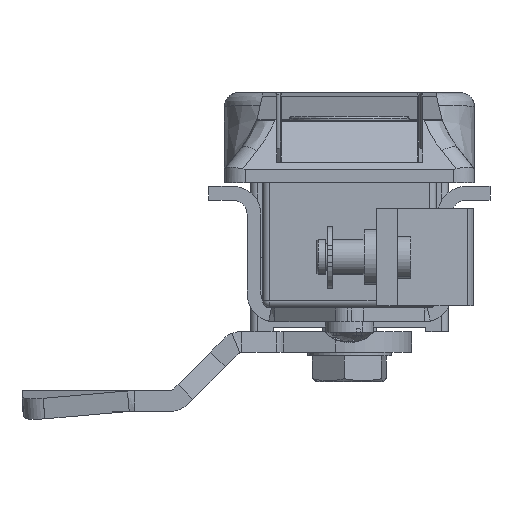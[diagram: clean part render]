
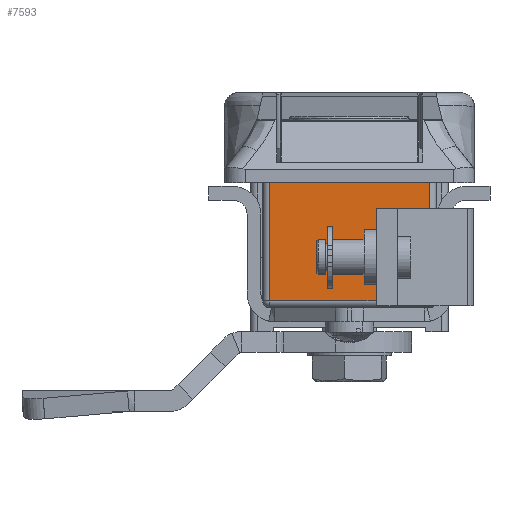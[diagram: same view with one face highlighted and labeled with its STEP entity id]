
A CAD part, front view. The second image highlights one B-rep face of the part: STEP entity #7593.
In plain terms, the highlighted planar face has unit normal (0, -1, 0).
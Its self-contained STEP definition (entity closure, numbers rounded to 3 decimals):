
#847 = EDGE_CURVE ( 'NONE', #20126, #12007, #7507, .T. ) ;
#1799 = VECTOR ( 'NONE', #46920, 1000. ) ;
#2677 = CARTESIAN_POINT ( 'NONE',  ( -6.5, 3., -17. ) ) ;
#3412 = CARTESIAN_POINT ( 'NONE',  ( -29.5, 3., -18. ) ) ;
#4815 = ORIENTED_EDGE ( 'NONE', *, *, #29370, .F. ) ;
#6681 = CARTESIAN_POINT ( 'NONE',  ( -29.5, 3., -17. ) ) ;
#7507 = LINE ( 'NONE', #30867, #7778 ) ;
#7543 = LINE ( 'NONE', #27678, #27519 ) ;
#7593 = ADVANCED_FACE ( 'NONE', ( #34584 ), #32876, .F. ) ;
#7778 = VECTOR ( 'NONE', #28297, 1000. ) ;
#12007 = VERTEX_POINT ( 'NONE', #45372 ) ;
#12050 = AXIS2_PLACEMENT_3D ( 'NONE', #32557, #32550, #32429 ) ;
#16648 = CARTESIAN_POINT ( 'NONE',  ( -6.5, 3., 0. ) ) ;
#20126 = VERTEX_POINT ( 'NONE', #16648 ) ;
#20428 = LINE ( 'NONE', #3412, #34051 ) ;
#21565 = ORIENTED_EDGE ( 'NONE', *, *, #847, .T. ) ;
#21956 = VERTEX_POINT ( 'NONE', #2677 ) ;
#23265 = EDGE_CURVE ( 'NONE', #20126, #21956, #7543, .T. ) ;
#26589 = VERTEX_POINT ( 'NONE', #6681 ) ;
#27519 = VECTOR ( 'NONE', #27663, 1000. ) ;
#27663 = DIRECTION ( 'NONE',  ( 0., 0., -1. ) ) ;
#27678 = CARTESIAN_POINT ( 'NONE',  ( -6.5, 3., -18. ) ) ;
#27834 = ORIENTED_EDGE ( 'NONE', *, *, #23265, .F. ) ;
#28297 = DIRECTION ( 'NONE',  ( -1., 0., 0. ) ) ;
#29370 = EDGE_CURVE ( 'NONE', #21956, #26589, #31812, .T. ) ;
#30867 = CARTESIAN_POINT ( 'NONE',  ( 0., 3., 0. ) ) ;
#31594 = EDGE_LOOP ( 'NONE', ( #21565, #33385, #4815, #27834 ) ) ;
#31812 = LINE ( 'NONE', #47216, #1799 ) ;
#32429 = DIRECTION ( 'NONE',  ( -1., 0., 0. ) ) ;
#32550 = DIRECTION ( 'NONE',  ( 0., 1., 0. ) ) ;
#32557 = CARTESIAN_POINT ( 'NONE',  ( -5.5, 3., -18. ) ) ;
#32876 = PLANE ( 'NONE',  #12050 ) ;
#33193 = DIRECTION ( 'NONE',  ( 0., 0., 1. ) ) ;
#33385 = ORIENTED_EDGE ( 'NONE', *, *, #35845, .F. ) ;
#34051 = VECTOR ( 'NONE', #33193, 1000. ) ;
#34584 = FACE_OUTER_BOUND ( 'NONE', #31594, .T. ) ;
#35845 = EDGE_CURVE ( 'NONE', #26589, #12007, #20428, .T. ) ;
#45372 = CARTESIAN_POINT ( 'NONE',  ( -29.5, 3., 0. ) ) ;
#46920 = DIRECTION ( 'NONE',  ( -1., 0., 0. ) ) ;
#47216 = CARTESIAN_POINT ( 'NONE',  ( -5.5, 3., -17. ) ) ;
